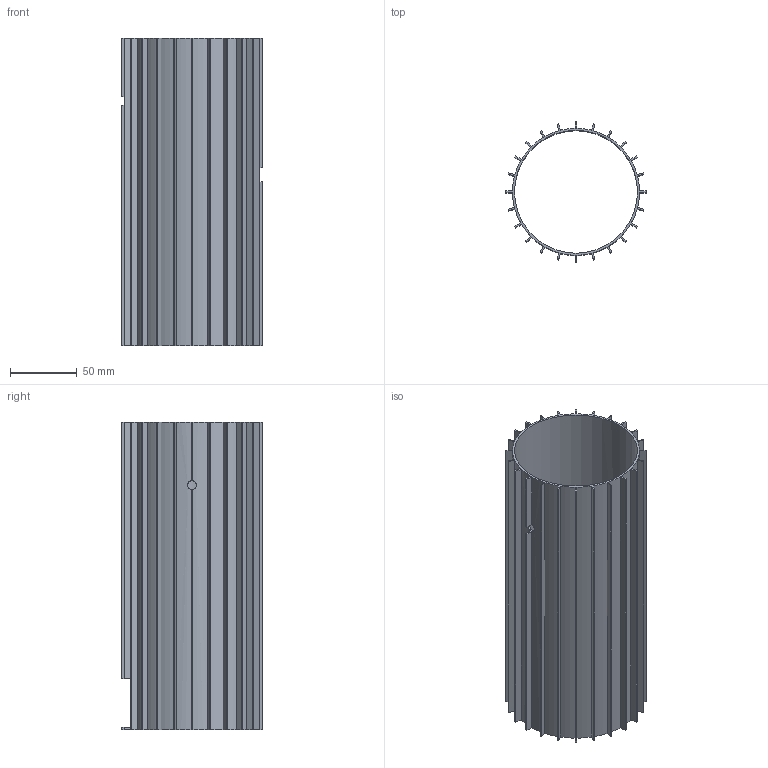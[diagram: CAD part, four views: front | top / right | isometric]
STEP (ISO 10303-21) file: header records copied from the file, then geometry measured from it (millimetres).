
FILE_DESCRIPTION(('Open CASCADE Model'),'2;1');
FILE_NAME('Open CASCADE Shape Model','2026-10-21T10:33:18',('Author'),( 'Open CASCADE'),'Open CASCADE STEP processor 7.9','Open CASCADE 7.9' ,'Unknown');
FILE_SCHEMA(('AUTOMOTIVE_DESIGN { 1 0 10303 214 1 1 1 1 }'));
Length unit declared in the file: millimetre
Products named in the file (1): Open CASCADE STEP translator 7.9 3
Bounding box: 105 x 105 x 230 mm (x, y, z)
Volume: 130939.8 mm3; surface area: 186985.1 mm2
Topology: 1 solids, 1 shells, 122 faces, 372 edges, 248 vertices
Faces by surface type: plane 93, cylinder 29
Full cylindrical faces by diameter (mm): 6.6 x1, 10.5 x1, 92 x1
Entity records: 9905 total; most frequent: CARTESIAN_POINT 2465, DIRECTION 1391, LINE 958, VECTOR 958, ORIENTED_EDGE 744, PCURVE 744, DEFINITIONAL_REPRESENTATION 744, EDGE_CURVE 372
